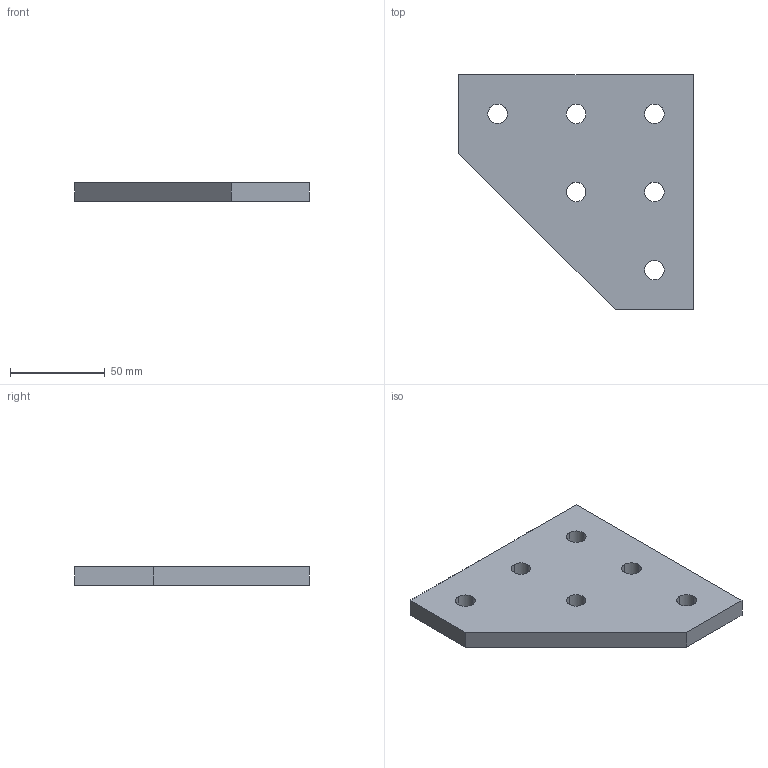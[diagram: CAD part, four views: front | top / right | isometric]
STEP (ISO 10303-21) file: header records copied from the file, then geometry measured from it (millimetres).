
FILE_DESCRIPTION(('TurboCAD Mac Pro'),'Build 980');
FILE_NAME('F20V-2520.stp',' ',(''),(''),'ACIS Interop','IMSI','TurboCAD Mac Pro BY IMSI, INCORPORATED');
FILE_SCHEMA(('automotive_design'));
Length unit declared in the file: inch
Products named in the file (2): 1; 2
Bounding box: 123.83 x 123.83 x 9.53 mm (x, y, z)
Volume: 108905.2 mm3; surface area: 28975.8 mm2
Topology: 1 solids, 1 shells, 31 faces, 87 edges, 58 vertices
Faces by surface type: bspline 24, plane 7
Entity records: 1811 total; most frequent: CARTESIAN_POINT 591, ORIENTED_EDGE 174, EDGE_CURVE 87, B_SPLINE_CURVE_WITH_KNOTS 72, DIRECTION 62, STYLED_ITEM 61, PRESENTATION_STYLE_ASSIGNMENT 61, COLOUR_RGB 61
